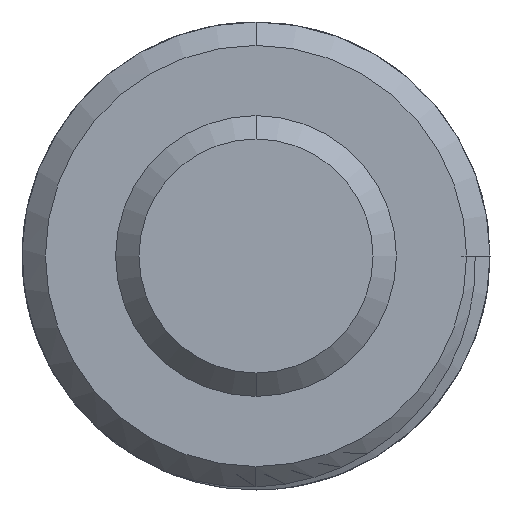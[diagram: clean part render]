
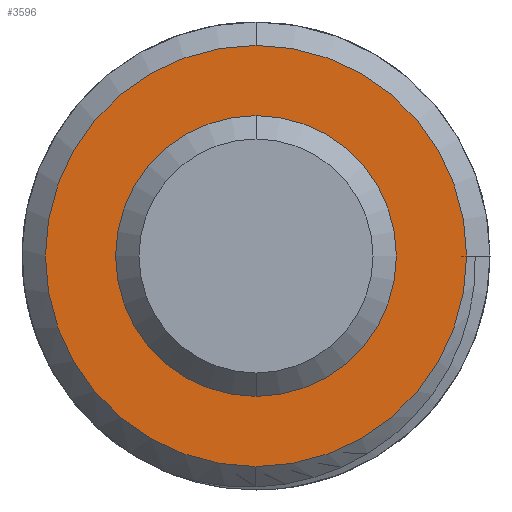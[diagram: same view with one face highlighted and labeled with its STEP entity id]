
A CAD part, front view. The second image highlights one B-rep face of the part: STEP entity #3596.
In plain terms, the highlighted planar face has unit normal (0, -1, 0).
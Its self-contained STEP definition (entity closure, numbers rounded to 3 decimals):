
#137 = CIRCLE ( 'NONE', #3350, 1.8 ) ;
#214 = VERTEX_POINT ( 'NONE', #695 ) ;
#285 = DIRECTION ( 'NONE',  ( 0., 0., -1. ) ) ;
#349 = DIRECTION ( 'NONE',  ( 0., 0., 1. ) ) ;
#474 = AXIS2_PLACEMENT_3D ( 'NONE', #501, #3108, #1487 ) ;
#480 = DIRECTION ( 'NONE',  ( 0., 0., 1. ) ) ;
#501 = CARTESIAN_POINT ( 'NONE',  ( 0., 15., 0. ) ) ;
#567 = CARTESIAN_POINT ( 'NONE',  ( 0., 15., 0. ) ) ;
#668 = DIRECTION ( 'NONE',  ( 0., 1., 0. ) ) ;
#673 = CARTESIAN_POINT ( 'NONE',  ( 0., 15., 1.2 ) ) ;
#695 = CARTESIAN_POINT ( 'NONE',  ( 0., 15., -1.8 ) ) ;
#799 = VERTEX_POINT ( 'NONE', #673 ) ;
#845 = EDGE_LOOP ( 'NONE', ( #3940, #2883 ) ) ;
#955 = EDGE_CURVE ( 'NONE', #214, #1641, #1302, .T. ) ;
#1228 = CIRCLE ( 'NONE', #474, 1.2 ) ;
#1231 = AXIS2_PLACEMENT_3D ( 'NONE', #3845, #668, #349 ) ;
#1302 = CIRCLE ( 'NONE', #1903, 1.8 ) ;
#1487 = DIRECTION ( 'NONE',  ( 0., 0., -1. ) ) ;
#1503 = EDGE_LOOP ( 'NONE', ( #1747, #3900 ) ) ;
#1641 = VERTEX_POINT ( 'NONE', #3584 ) ;
#1740 = CARTESIAN_POINT ( 'NONE',  ( 0., 15., 0. ) ) ;
#1747 = ORIENTED_EDGE ( 'NONE', *, *, #2043, .T. ) ;
#1832 = VERTEX_POINT ( 'NONE', #2380 ) ;
#1903 = AXIS2_PLACEMENT_3D ( 'NONE', #1740, #3023, #3707 ) ;
#1962 = CARTESIAN_POINT ( 'NONE',  ( 0., 15., 0. ) ) ;
#1963 = FACE_OUTER_BOUND ( 'NONE', #1503, .T. ) ;
#2043 = EDGE_CURVE ( 'NONE', #1641, #214, #137, .T. ) ;
#2045 = AXIS2_PLACEMENT_3D ( 'NONE', #1962, #2929, #285 ) ;
#2227 = EDGE_CURVE ( 'NONE', #1832, #799, #2325, .T. ) ;
#2289 = FACE_BOUND ( 'NONE', #845, .T. ) ;
#2325 = CIRCLE ( 'NONE', #2045, 1.2 ) ;
#2380 = CARTESIAN_POINT ( 'NONE',  ( 0., 15., -1.2 ) ) ;
#2883 = ORIENTED_EDGE ( 'NONE', *, *, #3549, .F. ) ;
#2929 = DIRECTION ( 'NONE',  ( 0., -1., 0. ) ) ;
#2930 = PLANE ( 'NONE',  #1231 ) ;
#3023 = DIRECTION ( 'NONE',  ( 0., -1., 0. ) ) ;
#3108 = DIRECTION ( 'NONE',  ( 0., -1., 0. ) ) ;
#3350 = AXIS2_PLACEMENT_3D ( 'NONE', #567, #3443, #480 ) ;
#3443 = DIRECTION ( 'NONE',  ( 0., -1., 0. ) ) ;
#3549 = EDGE_CURVE ( 'NONE', #799, #1832, #1228, .T. ) ;
#3584 = CARTESIAN_POINT ( 'NONE',  ( 0., 15., 1.8 ) ) ;
#3596 = ADVANCED_FACE ( 'NONE', ( #1963, #2289 ), #2930, .F. ) ;
#3707 = DIRECTION ( 'NONE',  ( 0., 0., 1. ) ) ;
#3845 = CARTESIAN_POINT ( 'NONE',  ( -1.2, 15., 0. ) ) ;
#3900 = ORIENTED_EDGE ( 'NONE', *, *, #955, .T. ) ;
#3940 = ORIENTED_EDGE ( 'NONE', *, *, #2227, .F. ) ;
